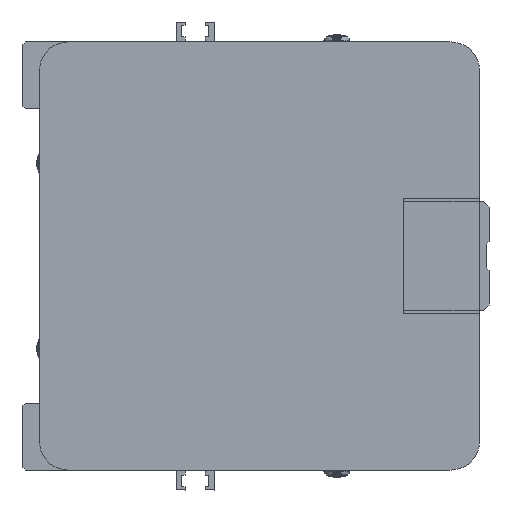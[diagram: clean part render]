
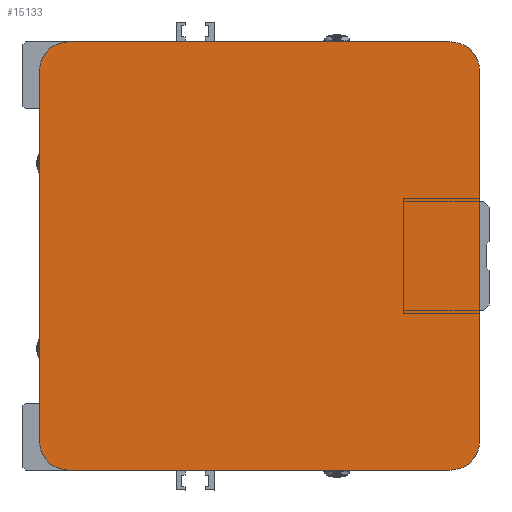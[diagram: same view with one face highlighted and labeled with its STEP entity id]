
A CAD part, left-side view. The second image highlights one B-rep face of the part: STEP entity #15133.
In plain terms, the highlighted planar face has unit normal (-1, 0, 0) as drawn and (0, 0, -1) by its records, which use the part's own axes.
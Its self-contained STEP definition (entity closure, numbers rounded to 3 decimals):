
#1213=CIRCLE('',#16145,6.);
#1215=CIRCLE('',#16150,6.);
#1216=CIRCLE('',#16156,6.);
#1217=CIRCLE('',#16158,6.);
#2126=FACE_OUTER_BOUND('',#3031,.T.);
#3031=EDGE_LOOP('',(#10597,#10598,#10599,#10600,#10601,#10602,#10603,#10604));
#4173=LINE('',#21726,#5418);
#4191=LINE('',#21765,#5436);
#4195=LINE('',#21777,#5440);
#4197=LINE('',#21784,#5442);
#5418=VECTOR('',#17765,78.);
#5436=VECTOR('',#17799,80.5);
#5440=VECTOR('',#17813,80.5);
#5442=VECTOR('',#17821,78.);
#6666=VERTEX_POINT('',#21720);
#6667=VERTEX_POINT('',#21724);
#6679=VERTEX_POINT('',#21762);
#6680=VERTEX_POINT('',#21764);
#6682=VERTEX_POINT('',#21773);
#6683=VERTEX_POINT('',#21775);
#6684=VERTEX_POINT('',#21779);
#6685=VERTEX_POINT('',#21783);
#8212=EDGE_CURVE('',#6667,#6666,#4173,.T.);
#8232=EDGE_CURVE('',#6679,#6680,#4191,.T.);
#8234=EDGE_CURVE('',#6680,#6667,#1213,.T.);
#8238=EDGE_CURVE('',#6683,#6682,#4195,.T.);
#8239=EDGE_CURVE('',#6682,#6684,#1215,.T.);
#8241=EDGE_CURVE('',#6684,#6685,#4197,.T.);
#8257=EDGE_CURVE('',#6685,#6679,#1216,.T.);
#8258=EDGE_CURVE('',#6666,#6683,#1217,.T.);
#10597=ORIENTED_EDGE('',*,*,#8239,.F.);
#10598=ORIENTED_EDGE('',*,*,#8238,.F.);
#10599=ORIENTED_EDGE('',*,*,#8258,.F.);
#10600=ORIENTED_EDGE('',*,*,#8212,.F.);
#10601=ORIENTED_EDGE('',*,*,#8234,.F.);
#10602=ORIENTED_EDGE('',*,*,#8232,.F.);
#10603=ORIENTED_EDGE('',*,*,#8257,.F.);
#10604=ORIENTED_EDGE('',*,*,#8241,.F.);
#14600=PLANE('',#16169);
#15133=ADVANCED_FACE('',(#2126),#14600,.T.);
#16145=AXIS2_PLACEMENT_3D('',#21768,#17803,#17804);
#16150=AXIS2_PLACEMENT_3D('',#21780,#17816,#17817);
#16156=AXIS2_PLACEMENT_3D('',#21812,#17845,#17846);
#16158=AXIS2_PLACEMENT_3D('',#21814,#17849,#17850);
#16169=AXIS2_PLACEMENT_3D('',#21833,#17876,#17877);
#17765=DIRECTION('',(1.,0.,0.));
#17799=DIRECTION('',(0.,-1.,0.));
#17803=DIRECTION('center_axis',(0.,0.,
1.));
#17804=DIRECTION('ref_axis',(-1.,0.,0.));
#17813=DIRECTION('',(0.,1.,0.));
#17816=DIRECTION('center_axis',(0.,0.,
1.));
#17817=DIRECTION('ref_axis',(1.,0.,0.));
#17821=DIRECTION('',(-1.,0.,0.));
#17845=DIRECTION('center_axis',(0.,0.,
1.));
#17846=DIRECTION('ref_axis',(0.,1.,0.));
#17849=DIRECTION('center_axis',(0.,0.,
1.));
#17850=DIRECTION('ref_axis',(0.,-1.,0.));
#17876=DIRECTION('center_axis',(0.,0.,
-1.));
#17877=DIRECTION('ref_axis',(0.545,-0.839,0.));
#21720=CARTESIAN_POINT('',(88.204,2.,-836.));
#21724=CARTESIAN_POINT('',(10.204,2.,-836.));
#21726=CARTESIAN_POINT('',(10.204,2.,-836.));
#21762=CARTESIAN_POINT('',(4.204,88.5,-836.));
#21764=CARTESIAN_POINT('',(4.204,8.,-836.));
#21765=CARTESIAN_POINT('',(4.204,88.5,-836.));
#21768=CARTESIAN_POINT('Origin',(10.204,8.,-836.));
#21773=CARTESIAN_POINT('',(94.204,88.5,-836.));
#21775=CARTESIAN_POINT('',(94.204,8.,-836.));
#21777=CARTESIAN_POINT('',(94.204,8.,-836.));
#21779=CARTESIAN_POINT('',(88.204,94.5,-836.));
#21780=CARTESIAN_POINT('Origin',(88.204,88.5,-836.));
#21783=CARTESIAN_POINT('',(10.204,94.5,-836.));
#21784=CARTESIAN_POINT('',(88.204,94.5,-836.));
#21812=CARTESIAN_POINT('Origin',(10.204,88.5,-836.));
#21814=CARTESIAN_POINT('Origin',(88.204,8.,-836.));
#21833=CARTESIAN_POINT('Origin',(49.204,26.,-836.));
